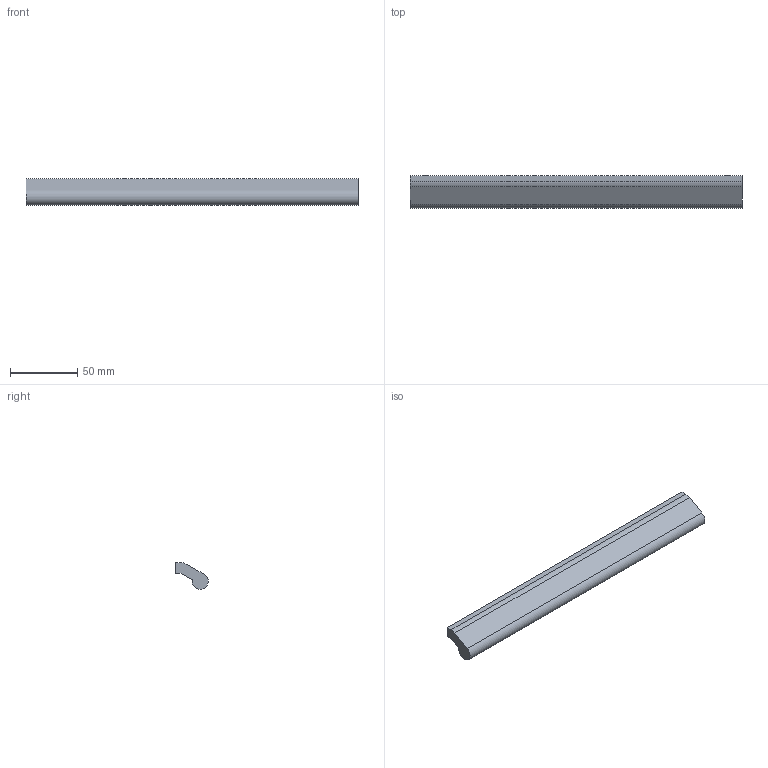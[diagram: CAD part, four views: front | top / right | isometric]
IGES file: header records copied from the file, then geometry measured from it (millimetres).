
Start section: Data from Parasolid IGES Translator 15.0.47, Copyright(c) 2006 Siemens P LM Software. All Rights Reserved.
Global section: file name: 115099.igs; native system:  By UGS Corp.; preprocessor: XPlus GENERIC/IGES 3.0; author: Noname; organization: Noname; date: 20140122.143620; units: millimetre
Bounding box: 246 x 24 x 19.77 mm (x, y, z)
Surface area: 18039 mm2 (no closed solid volume)
Topology: 0 solids, 0 shells, 15 faces, 66 edges, 64 vertices
Faces by surface type: extrusion 9, revolution 6
